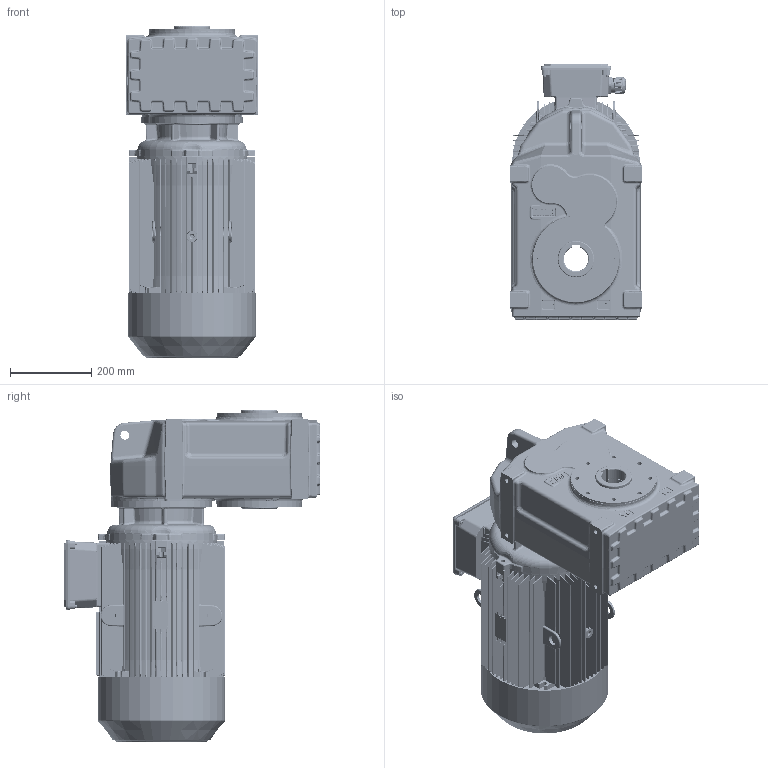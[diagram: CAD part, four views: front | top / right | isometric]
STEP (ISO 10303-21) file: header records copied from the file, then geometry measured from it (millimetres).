
FILE_DESCRIPTION (( 'STEP AP203' ), '1' );
FILE_NAME ('YPM 93-160 L.step', '2023-10-18T10:46:33', ( '' ), ( '' ), 'SwSTEP 2.0', 'SolidWorks 2022', '' );
FILE_SCHEMA (( 'CONFIG_CONTROL_DESIGN' ));
Length unit declared in the file: millimetre
Products named in the file (5): 15kW_160_L_B9 - Standart; Şase_Ø250; YPM 93-160 L; YP 93-_YP 93; MBK 160 IE3 GMK İR83, İRK93, YP93, V81, İRC83, İRSD83
Assembly tree (4 placements, depth 2):
  YPM 93-160 L
    Şase_Ø250
    YP 93-_YP 93
    MBK 160 IE3 GMK İR83, İRK93, YP93, V81, İRC83, İRSD83
    15kW_160_L_B9 - Standart
Bounding box: 325 x 629.51 x 818 mm (x, y, z)
Volume: 66056546.7 mm3; surface area: 2745408.5 mm2
Topology: 4 solids, 10 shells, 10517 faces, 28578 edges, 18251 vertices
Faces by surface type: plane 5281, bspline 2462, cylinder 1876, cone 395, torus 304, sphere 199
Entity records: 454826 total; most frequent: CARTESIAN_POINT 212289, ORIENTED_EDGE 56752, DIRECTION 40841, EDGE_CURVE 28376, VERTEX_POINT 18175, LINE 16643, VECTOR 16643, AXIS2_PLACEMENT_3D 12099
